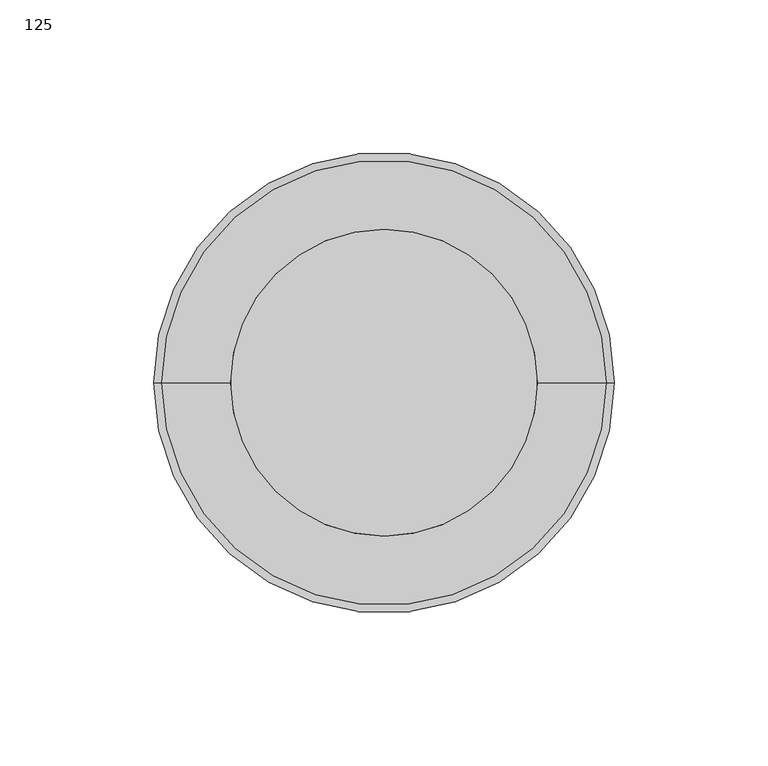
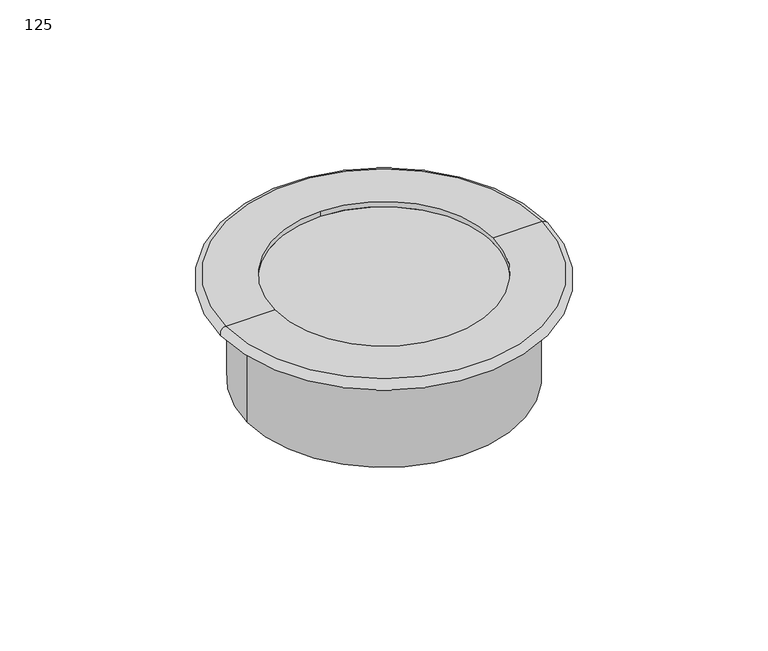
"""IFC4 building model written with IfcOpenShell, lengths in millimetres: duct fitting geometry, HEATPEX - ARIA ADURO - Czerpnia płaska : 125."""

from ifc_helpers import new_model, si_unit, point, frame, origin, origin_2d, place, context, project, spatial, polyline, circle_curve, ellipse_curve, trimmed, segment, composite_curve, outline, extrude, source, transform, mapped, element, save
from ifc_brep_helpers import plane_surface, revolved_surface, advanced_brep


def duct_fitting_125_81f458a2(model_context):
    return source(origin(), model_context, "Body", "SolidModel", [
        advanced_brep(
        [(72.5, 0.0, 0.0), (-72.5, 0.0, 0.0), (-72.5, 0.0, 5.0), (72.5, 0.0, 5.0), (0.0, 0.0, 0.0), (-50.0, 0.0, 5.0), (0.0, 50.0, 5.0), (50.0, 0.0, 5.0), (0.0, -50.0, 5.0), (0.0, 50.0, 2.5), (0.0, -50.0, 2.5)],
        [
            (0, 1, circle_curve(frame((0.0, 0.0, 0.0), z_axis=(0.0, 0.0, 1.0), x_axis=(-1.0, 0.0, 0.0)), 72.5)),
            (1, 2, circle_curve(frame((-72.5, 0.0, 2.5), z_axis=(0.0, 1.0, 0.0), x_axis=(1.0, 0.0, 0.0)), 2.5)),
            (2, 3, circle_curve(frame((0.0, 0.0, 5.0), z_axis=(0.0, 0.0, -1.0), x_axis=(-1.0, 0.0, 0.0)), 72.5)),
            (3, 0, circle_curve(frame((72.5, 0.0, 2.5), z_axis=(0.0, 1.0, 0.0), x_axis=(-1.0, 0.0, 0.0)), 2.5)),
            (1, 0, circle_curve(frame((0.0, 0.0, 0.0), z_axis=(0.0, 0.0, 1.0), x_axis=(-1.0, 0.0, 0.0)), 72.5)),
            (3, 2, circle_curve(frame((0.0, 0.0, 5.0), z_axis=(0.0, 0.0, -1.0), x_axis=(-1.0, 0.0, 0.0)), 72.5)),
            (0, 4),
            (4, 1),
            (2, 5),
            (5, 6, circle_curve(frame((0.0, 0.0, 5.0), z_axis=(0.0, 0.0, -1.0), x_axis=(0.0, -1.0, 0.0)), 50.0)),
            (6, 7, circle_curve(frame((0.0, 0.0, 5.0), z_axis=(0.0, 0.0, -1.0), x_axis=(0.0, -1.0, 0.0)), 50.0)),
            (7, 3),
            (7, 8, circle_curve(frame((0.0, 0.0, 5.0), z_axis=(0.0, 0.0, -1.0), x_axis=(0.0, -1.0, 0.0)), 50.0)),
            (8, 5, circle_curve(frame((0.0, 0.0, 5.0), z_axis=(0.0, 0.0, -1.0), x_axis=(0.0, -1.0, 0.0)), 50.0)),
            (9, 10, circle_curve(frame((0.0, 0.0, 2.5), z_axis=(0.0, 0.0, 1.0), x_axis=(0.0, -1.0, 0.0)), 50.0)),
            (10, 9, circle_curve(frame((0.0, 0.0, 2.5), z_axis=(0.0, 0.0, 1.0), x_axis=(0.0, -1.0, 0.0)), 50.0)),
            (10, 8),
            (6, 9),
        ],
        [
            revolved_surface(trimmed(ellipse_curve(frame((-72.5, 0.0, 2.5), z_axis=(0.0, -1.0, 0.0), x_axis=(1.0, 0.0, 0.0)), 2.5, 2.5), [point((-72.5, 0.0, 5.0))], [point((-72.5, 0.0, 0.0))], True, "CARTESIAN"), (0.0, 0.0, 27.1065998), (0.0, 0.0, -1.0)),
            plane_surface(frame((0.0, 0.0, 0.0), z_axis=(0.0, 0.0, -1.0), x_axis=(-1.0, 0.0, 0.0))),
            plane_surface(frame((0.0, 0.0, 5.0), z_axis=(0.0, 0.0, 1.0), x_axis=(-1.0, 0.0, 0.0))),
            plane_surface(frame((0.0, 0.0, 2.5), z_axis=(0.0, 0.0, 1.0), x_axis=(1.0, 0.0, 0.0))),
            revolved_surface(polyline([(0.0, -50.0, 2.5), (0.0, -50.0, 5.0)]), (0.0, 0.0, 2.5), (0.0, 0.0, -1.0)),
        ],
        [
            (0, [[1, 2, 3, 4]]),
            (0, [[-2, 5, -4, 6]]),
            (1, [[-1, 7, 8]]),
            (1, [[-5, -8, -7]]),
            (2, [[-3, 9, 10, 11, 12]]),
            (2, [[-6, -12, 13, 14, -9]]),
            (3, [[15, 16]]),
            (4, [[-16, 17, -13, -11, 18]]),
            (4, [[-15, -18, -10, -14, -17]]),
        ],
    ),
        extrude(outline(composite_curve([segment(trimmed(circle_curve(origin_2d(), 62.5), [point((-62.5, 0.0))], [point((62.5, 0.0))], False, "CARTESIAN"), True, "CONTINUOUS"), segment(trimmed(circle_curve(origin_2d(), 62.5), [point((62.5, 0.0))], [point((-62.5, 0.0))], False, "CARTESIAN"), True, "CONTINUOUS")], self_intersect=False)), frame((0.0, 0.0, -45.0), z_axis=(0.0, 0.0, 1.0), x_axis=(1.0, 0.0, 0.0)), (0.0, 0.0, 1.0), 45.0),
    ])


if __name__ == "__main__":
    model = new_model("IFC4")
    model_context = context("Model", 3, world=origin())
    ifc_project = project(units=[si_unit("LENGTHUNIT", "METRE", prefix="MILLI")], contexts=[model_context])
    site = spatial("IfcSite", under=ifc_project)
    building = spatial("IfcBuilding", under=site)
    placement = place(None, origin())
    duct_fitting_125_shape = duct_fitting_125_81f458a2(model_context)
    element("IfcDuctFitting", 1, ObjectType="HEATPEX - ARIA ADURO - Czerpnia płaska : 125", at=placement, inside=building, context=model_context, shape_type="MappedRepresentation", body=[
        mapped(duct_fitting_125_shape, transform((0.0, 0.0, 0.0), x_axis=(1.0, 0.0, 0.0), y_axis=(0.0, 1.0, 0.0), z_axis=(0.0, 0.0, 1.0))),
    ])
    save(model, "model.ifc")
